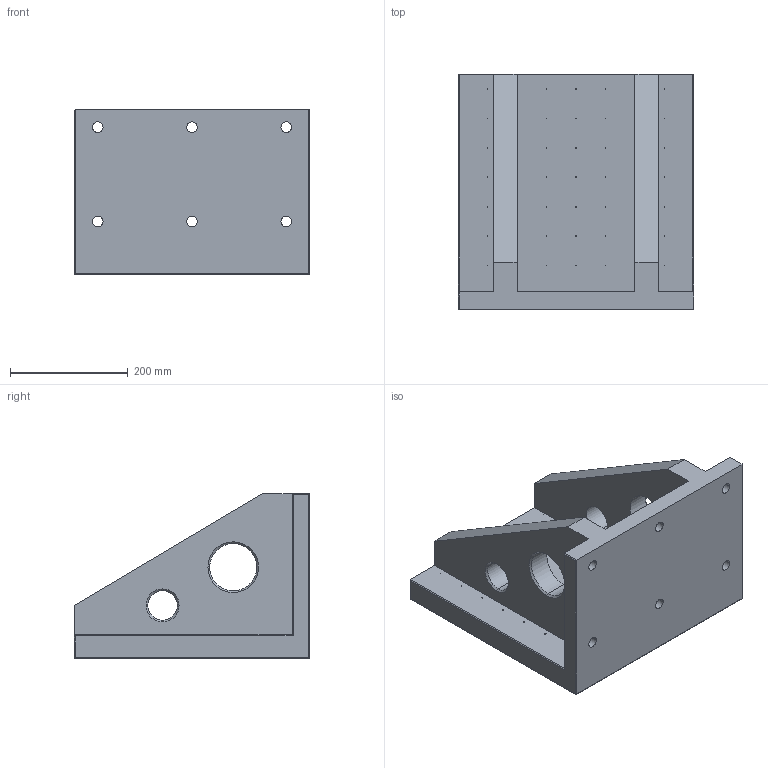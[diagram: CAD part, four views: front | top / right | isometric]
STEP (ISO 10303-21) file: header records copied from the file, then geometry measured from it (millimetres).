
FILE_DESCRIPTION((''),'2;1');
FILE_NAME('FG_WH_ANGPL_ANG16NP001','2026-05-22T12:35:05',('Admin'),(''),'CREO PARAMETRIC BY PTC INC, 2025010','CREO PARAMETRIC BY PTC INC, 2025010','');
FILE_SCHEMA(('CONFIG_CONTROL_DESIGN'));
Length unit declared in the file: millimetre
Products named in the file (1): FG_WH_ANGPL_ANG16NP001
Bounding box: 400 x 400 x 280 mm (x, y, z)
Volume: 12998031.3 mm3; surface area: 955186.8 mm2
Topology: 1 solids, 50 shells, 567 faces, 1439 edges, 936 vertices
Faces by surface type: cylinder 326, plane 135, cone 106
Entity records: 17465 total; most frequent: DIRECTION 3403, CARTESIAN_POINT 2915, ORIENTED_EDGE 2626, AXIS2_PLACEMENT_3D 1424, EDGE_CURVE 1411, VERTEX_POINT 936, CIRCLE 856, EDGE_LOOP 775
